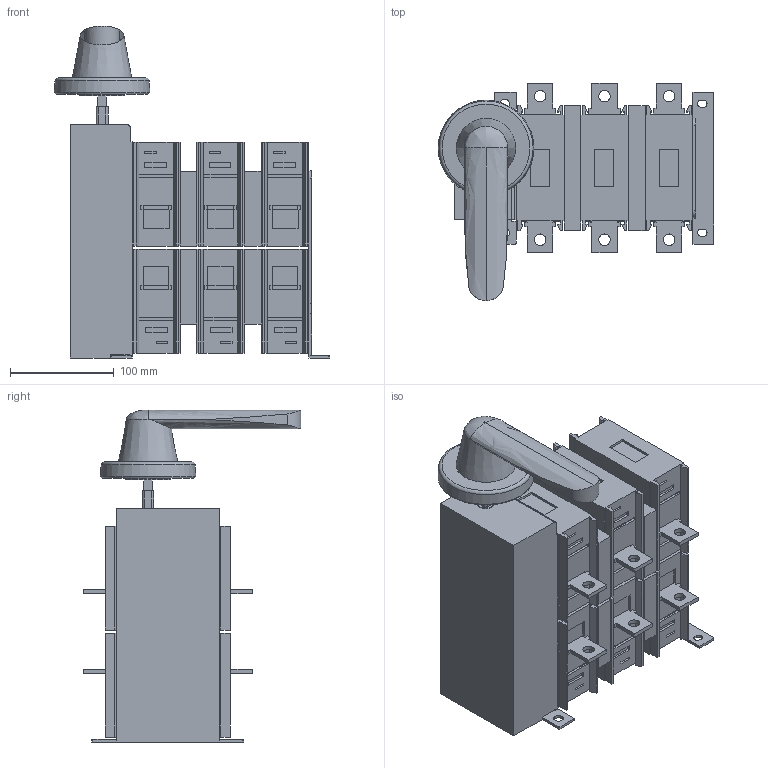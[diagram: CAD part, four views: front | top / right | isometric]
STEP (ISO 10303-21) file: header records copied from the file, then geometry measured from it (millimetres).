
FILE_DESCRIPTION (( 'STEP AP203' ), '1' );
FILE_NAME ('OptiSwitch DI-C2-(200-315)-3P (m=6羱).STEP', '2023-02-26T22:00:58', ( '砐錪賧瘔蠈錪' ), ( '' ), 'SwSTEP 2.0', 'SolidWorks 2018', '' );
FILE_SCHEMA (( 'CONFIG_CONTROL_DESIGN' ));
Length unit declared in the file: millimetre
Products named in the file (1): OptiSwitch DI-C2-(200-315)-3P (m=6羱)
Bounding box: 265 x 209.5 x 319.31 mm (x, y, z)
Volume: 5087110 mm3; surface area: 383105 mm2
Topology: 1 solids, 1 shells, 733 faces, 1982 edges, 1304 vertices
Faces by surface type: plane 683, cylinder 36, bspline 9, cone 3, torus 2
Full cylindrical faces by diameter (mm): 9 x2, 11 x12, 16.9 x1, 43.842 x1
Entity records: 27851 total; most frequent: CARTESIAN_POINT 9342, ORIENTED_EDGE 3918, DIRECTION 3473, EDGE_CURVE 1959, VECTOR 1859, LINE 1859, VERTEX_POINT 1302, EDGE_LOOP 843
